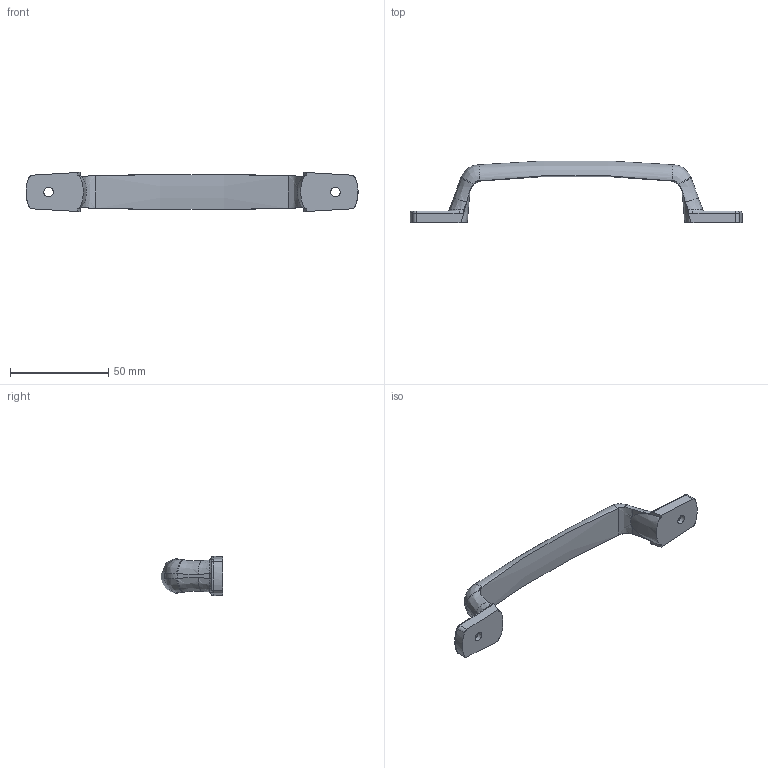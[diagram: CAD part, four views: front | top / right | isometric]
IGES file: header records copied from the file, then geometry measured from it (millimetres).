
Global section: file name: DR_A-CC146; native system: Autodesk Inventor 2015; preprocessor: unknown; author: Administrator; date: 20170708.081729; units: millimetre
Bounding box: 168.95 x 31.48 x 19.97 mm (x, y, z)
Volume: 21370.2 mm3; surface area: 9015 mm2
Topology: 1 solids, 1 shells, 90 faces, 222 edges, 134 vertices
Faces by surface type: bspline 90
